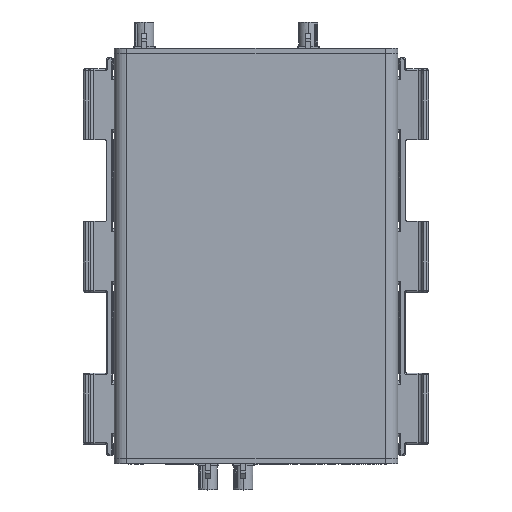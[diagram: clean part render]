
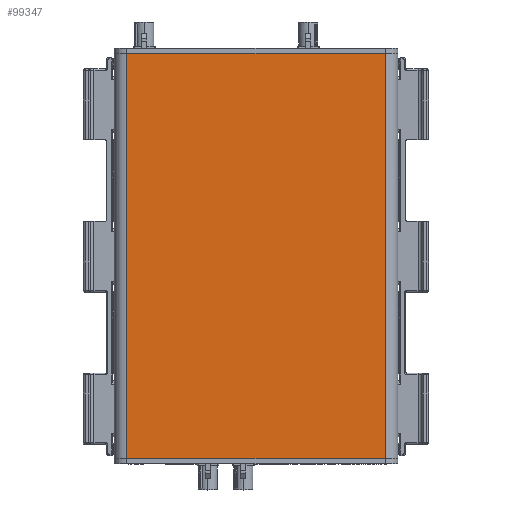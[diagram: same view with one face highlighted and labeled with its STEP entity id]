
A CAD part, top view. The second image highlights one B-rep face of the part: STEP entity #99347.
In plain terms, the highlighted planar face has unit normal (0, 0, 1) as drawn and (0, 1, 0) by its records, which use the part's own axes.
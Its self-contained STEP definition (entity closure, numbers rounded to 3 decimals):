
#9321 = ORIENTED_EDGE ( 'NONE', *, *, #58550, .T. ) ;
#9324 = ORIENTED_EDGE ( 'NONE', *, *, #58492, .F. ) ;
#9328 = ORIENTED_EDGE ( 'NONE', *, *, #58557, .T. ) ;
#9332 = ORIENTED_EDGE ( 'NONE', *, *, #58420, .F. ) ;
#58420 = EDGE_CURVE ( 'NONE', #71752, #71755, #98315, .T. ) ;
#58492 = EDGE_CURVE ( 'NONE', #71858, #71860, #98476, .T. ) ;
#58550 = EDGE_CURVE ( 'NONE', #71752, #71860, #98624, .T. ) ;
#58557 = EDGE_CURVE ( 'NONE', #71858, #71755, #98644, .T. ) ;
#65303 = EDGE_LOOP ( 'NONE', ( #9321, #9324, #9328, #9332 ) ) ;
#71752 = VERTEX_POINT ( 'NONE', #117737 ) ;
#71755 = VERTEX_POINT ( 'NONE', #117738 ) ;
#71858 = VERTEX_POINT ( 'NONE', #117771 ) ;
#71860 = VERTEX_POINT ( 'NONE', #117772 ) ;
#76743 = AXIS2_PLACEMENT_3D ( 'NONE', #89431, #89437, #89439 ) ;
#87145 = FACE_OUTER_BOUND ( 'NONE', #65303, .T. ) ;
#89431 = CARTESIAN_POINT ( 'NONE',  ( 0., 30., 164. ) ) ;
#89434 = PLANE ( 'NONE',  #76743 ) ;
#89437 = DIRECTION ( 'NONE',  ( 0., -1., 0. ) ) ;
#89439 = DIRECTION ( 'NONE',  ( 0., 0., -1. ) ) ;
#98315 = LINE ( 'NONE', #102838, #98320 ) ;
#98320 = VECTOR ( 'NONE', #102831, 1000. ) ;
#98476 = LINE ( 'NONE', #103031, #98481 ) ;
#98481 = VECTOR ( 'NONE', #103032, 1000. ) ;
#98624 = LINE ( 'NONE', #103203, #98633 ) ;
#98633 = VECTOR ( 'NONE', #103207, 1000. ) ;
#98644 = LINE ( 'NONE', #103216, #98654 ) ;
#98654 = VECTOR ( 'NONE', #103219, 1000. ) ;
#99347 = ADVANCED_FACE ( 'NONE', ( #87145 ), #89434, .F. ) ;
#102831 = DIRECTION ( 'NONE',  ( -1., 0., 0. ) ) ;
#102838 = CARTESIAN_POINT ( 'NONE',  ( 122., 30., 161.9 ) ) ;
#103031 = CARTESIAN_POINT ( 'NONE',  ( 122., 30., 2.1 ) ) ;
#103032 = DIRECTION ( 'NONE',  ( 1., 0., 0. ) ) ;
#103203 = CARTESIAN_POINT ( 'NONE',  ( 107., 30., 164. ) ) ;
#103207 = DIRECTION ( 'NONE',  ( 0., 0., -1. ) ) ;
#103216 = CARTESIAN_POINT ( 'NONE',  ( 5., 30., 164. ) ) ;
#103219 = DIRECTION ( 'NONE',  ( 0., 0., 1. ) ) ;
#117737 = CARTESIAN_POINT ( 'NONE',  ( 107., 30., 161.9 ) ) ;
#117738 = CARTESIAN_POINT ( 'NONE',  ( 5., 30., 161.9 ) ) ;
#117771 = CARTESIAN_POINT ( 'NONE',  ( 5., 30., 2.1 ) ) ;
#117772 = CARTESIAN_POINT ( 'NONE',  ( 107., 30., 2.1 ) ) ;
